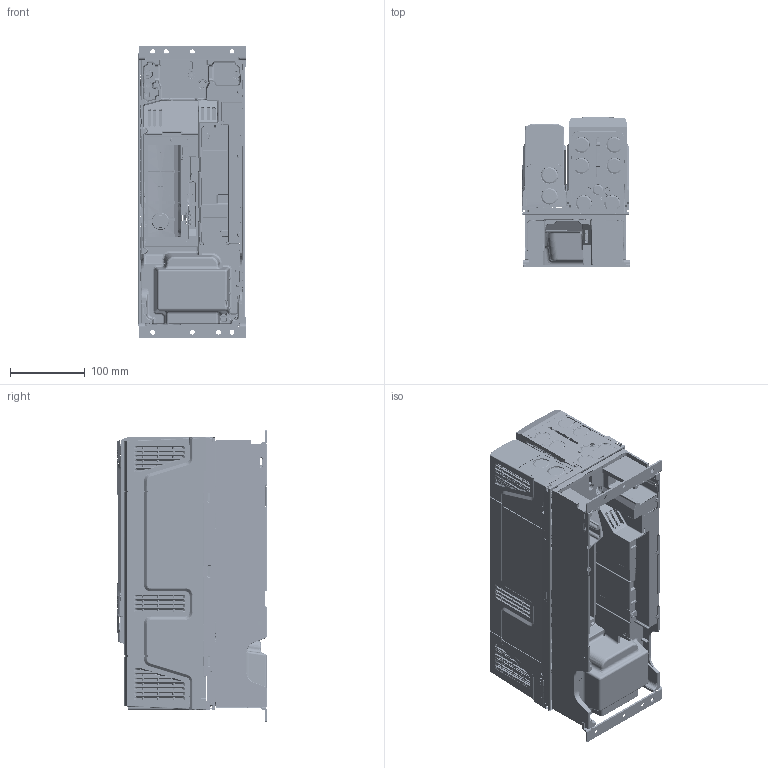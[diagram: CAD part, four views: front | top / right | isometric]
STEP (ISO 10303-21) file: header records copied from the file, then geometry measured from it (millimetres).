
FILE_DESCRIPTION((''),'2;1');
FILE_NAME('UNIM05_WITH_COVERS','2013-09-06T',('KMandokar'),(''),'PRO/ENGINEER BY PARAMETRIC TECHNOLOGY CORPORATION, 2011490','PRO/ENGINEER BY PARAMETRIC TECHNOLOGY CORPORATION, 2011490','');
FILE_SCHEMA(('CONFIG_CONTROL_DESIGN'));
Products named in the file (1): UNIM05_WITH_COVERS
Bounding box: 144 x 200.05 x 391 mm (x, y, z)
Surface area: 956775 mm2 (no closed solid volume)
Topology: 0 solids, 1554 shells, 6664 faces, 48176 edges, 42521 vertices
Faces by surface type: plane 3352, cylinder 1936, bspline 609, cone 353, torus 209, extrusion 180, sphere 25
Entity records: 527960 total; most frequent: CARTESIAN_POINT 214360, ORIENTED_EDGE 55320, DIRECTION 50919, EDGE_CURVE 48166, VERTEX_POINT 42520, VECTOR 29617, LINE 29437, B_SPLINE_CURVE_WITH_KNOTS 14132
